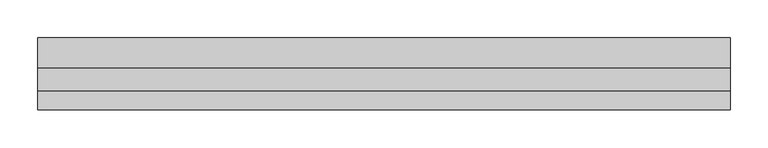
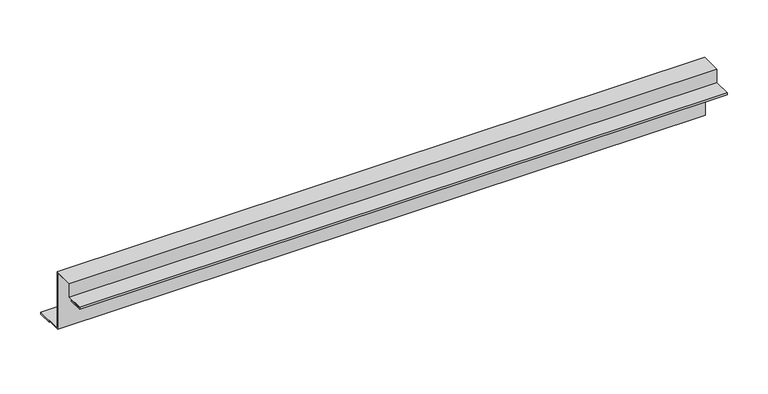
"""IFC4 building model written with IfcOpenShell, lengths in millimetres: proxy geometry, АК7_1 низ Обрамление оконного_дверного проема : АК7_1 низ Обрамление оконного_дверного проема."""

import ifcopenshell
import ifcopenshell.guid

model = None  # the IFC model being written
_history = None  # IfcOwnerHistory: only IFC2X3 demands one
_inside = {}  # id of a spatial element -> (the spatial element, [elements in it])
_under = {}  # id of a project, library or spatial element -> (it, [spatial elements below it])
_declared = {}  # id of a project -> (the project, [libraries it declares])
_typed = {}  # id of a type object -> (the type object, [elements of that type])
_made_of = {}  # id of a material, layer set ... -> (it, [elements and type objects made of it])


def new_model(schema):
    """Start an empty IFC model of exactly this schema.

    Asked for "IFC4X3", IfcOpenShell would pick the latest addendum, in which some entities
    have other attributes; the version numbers below select the first issue.
    IFC2X3 requires an IfcOwnerHistory on every rooted entity: one is made here for all.
    """
    global model, _history
    if schema == "IFC4X3":
        model = ifcopenshell.file(schema_version=(4, 3, 0, 0))
    else:
        model = ifcopenshell.file(schema=schema)
    _inside.clear()
    _under.clear()
    _declared.clear()
    _typed.clear()
    _made_of.clear()
    _history = None
    if model.schema == "IFC2X3":
        org = make("IfcOrganization", Name="unknown")
        user = make(
            "IfcPersonAndOrganization",
            ThePerson=make("IfcPerson", FamilyName="unknown"),
            TheOrganization=org,
        )
        app = make(
            "IfcApplication",
            ApplicationDeveloper=org,
            Version="unknown",
            ApplicationFullName="unknown",
            ApplicationIdentifier="unknown",
        )
        _history = make(
            "IfcOwnerHistory",
            OwningUser=user,
            OwningApplication=app,
            ChangeAction="ADDED",
            CreationDate=0,
        )
    return model


def make(cls, **values):
    """One entity of the class cls with the attributes given. An attribute that is None is left unset."""
    return model.create_entity(
        cls, **{name: value for name, value in values.items() if value is not None}
    )


def rooted(cls, **values):
    """An entity with a GlobalId (a new one), such as an element, a storey or a relation."""
    return make(cls, GlobalId=ifcopenshell.guid.new(), OwnerHistory=_history, **values)


def si_unit(unit_type, name, prefix=None):
    """IfcSIUnit, for example si_unit("LENGTHUNIT", "METRE", prefix="MILLI")."""
    return make("IfcSIUnit", UnitType=unit_type, Prefix=prefix, Name=name)


def assignment(units):
    """IfcUnitAssignment: the units of a project."""
    return None if units is None else make("IfcUnitAssignment", Units=units)


def point(xyz):
    """IfcCartesianPoint."""
    return None if xyz is None else make("IfcCartesianPoint", Coordinates=xyz)


def direction(xyz):
    """IfcDirection."""
    return None if xyz is None else make("IfcDirection", DirectionRatios=xyz)


def frame(location, z_axis=None, x_axis=None):
    """IfcAxis2Placement3D, a coordinate frame: its origin and axes. An axis left out is left unset."""
    return make(
        "IfcAxis2Placement3D",
        Location=point(location),
        Axis=direction(z_axis),
        RefDirection=direction(x_axis),
    )


def origin():
    """The frame at (0, 0, 0) with its axes left unset."""
    return frame((0.0, 0.0, 0.0))


def place(relative_to, where):
    """IfcLocalPlacement: puts the frame where relative to a parent placement (None: the world)."""
    return make(
        "IfcLocalPlacement", PlacementRelTo=relative_to, RelativePlacement=where
    )


def context(
    kind, dimensions, precision=None, world=None, true_north=None, identifier=None
):
    """IfcGeometricRepresentationContext, for example the 3D "Model" context."""
    return make(
        "IfcGeometricRepresentationContext",
        ContextIdentifier=identifier,
        ContextType=kind,
        CoordinateSpaceDimension=dimensions,
        Precision=precision,
        WorldCoordinateSystem=world,
        TrueNorth=true_north,
    )


def project(units=None, contexts=None):
    """IfcProject with its units and contexts."""
    return rooted(
        "IfcProject",
        Name="project",
        RepresentationContexts=contexts,
        UnitsInContext=assignment(units),
    )


def spatial(cls, under=None, at=None, **own):
    """A site, building, storey or space (cls), placed at a placement, below another one or the project."""
    s = rooted(cls, ObjectPlacement=at, **own)
    if under is not None:
        _under.setdefault(under.id(), (under, []))[1].append(s)
    return s


def polyline(points):
    """IfcPolyline through the points."""
    return make("IfcPolyline", Points=[point(p) for p in points])


def outline(outer, holes=None, kind="AREA"):
    """IfcArbitraryClosedProfileDef: a profile drawn as a closed curve; with holes, ...WithVoids."""
    if holes is None:
        return make("IfcArbitraryClosedProfileDef", ProfileType=kind, OuterCurve=outer)
    return make(
        "IfcArbitraryProfileDefWithVoids",
        ProfileType=kind,
        OuterCurve=outer,
        InnerCurves=holes,
    )


def extrude(swept, where, along, depth):
    """IfcExtrudedAreaSolid: the profile swept, set in the frame where, extruded along a direction by depth."""
    return make(
        "IfcExtrudedAreaSolid",
        SweptArea=swept,
        Position=where,
        ExtrudedDirection=direction(along),
        Depth=depth,
    )


def shape(context_of_items, identifier, shape_type, items):
    """IfcShapeRepresentation: the items that make up one representation, for example the "Body"."""
    return make(
        "IfcShapeRepresentation",
        ContextOfItems=context_of_items,
        RepresentationIdentifier=identifier,
        RepresentationType=shape_type,
        Items=items,
    )


def source(mapping_origin, context_of_items, identifier, shape_type, items):
    """IfcRepresentationMap: a shape defined once, which mapped items show again and again."""
    return make(
        "IfcRepresentationMap",
        MappingOrigin=mapping_origin,
        MappedRepresentation=shape(context_of_items, identifier, shape_type, items),
    )


def transform(
    local_origin,
    x_axis=None,
    y_axis=None,
    z_axis=None,
    scale=None,
    scale2=None,
    scale3=None,
    uniform=True,
):
    """IfcCartesianTransformationOperator3D, or its non-uniform kind. x_axis, y_axis, z_axis: its Axis1, 2, 3."""
    if uniform:
        return make(
            "IfcCartesianTransformationOperator3D",
            Axis1=direction(x_axis),
            Axis2=direction(y_axis),
            LocalOrigin=point(local_origin),
            Scale=scale,
            Axis3=direction(z_axis),
        )
    return make(
        "IfcCartesianTransformationOperator3DnonUniform",
        Axis1=direction(x_axis),
        Axis2=direction(y_axis),
        LocalOrigin=point(local_origin),
        Scale=scale,
        Axis3=direction(z_axis),
        Scale2=scale2,
        Scale3=scale3,
    )


def mapped(mapping_source, mapping_target):
    """IfcMappedItem: shows the shape of a source again, moved by a transform."""
    return make(
        "IfcMappedItem", MappingSource=mapping_source, MappingTarget=mapping_target
    )


def made_of(thing, what):
    """Note that an element or type object is made of a material, layer set ...; save() writes the relation."""
    if what is not None:
        _made_of.setdefault(what.id(), (what, []))[1].append(thing)
    return thing


def element(
    cls,
    number,
    at=None,
    inside=None,
    cuts=None,
    type_object=None,
    material=None,
    context=None,
    identifier="Body",
    shape_type=None,
    held_by="IfcProductDefinitionShape",
    body=None,
    shapes=None,
    **own,
):
    """One element of the class cls, such as IfcWall. Its Tag is "e" and its number.

    at: its placement. inside: the storey or other place that contains it. cuts: it is an
    opening in that element (IfcRelVoidsElement). A single representation is given by context,
    identifier, shape_type and body (its items); several are given by shapes. held_by: the class
    of the entity that holds the representations. save() writes the other relations.
    """
    e = rooted(cls, Tag="e%d" % number, ObjectPlacement=at, **own)
    if body is not None:
        shapes = [shape(context, identifier, shape_type, body)]
    if shapes is not None:
        e.Representation = make(held_by, Representations=shapes)
    if inside is not None:
        _inside.setdefault(inside.id(), (inside, []))[1].append(e)
    if cuts is not None:
        rooted(
            "IfcRelVoidsElement", RelatingBuildingElement=cuts, RelatedOpeningElement=e
        )
    if type_object is not None:
        _typed.setdefault(type_object.id(), (type_object, []))[1].append(e)
    return made_of(e, material)


def aggregate(whole, parts):
    """IfcRelAggregates: a whole, such as a stair, and the parts it consists of."""
    return rooted("IfcRelAggregates", RelatingObject=whole, RelatedObjects=parts)


def save(model, path):
    """Write the relations noted so far, then the file.

    IfcRelAggregates (storeys below a building ...), IfcRelContainedInSpatialStructure (elements
    in a storey), IfcRelDefinesByType, IfcRelAssociatesMaterial and IfcRelDeclares: one each for
    every whole, place, type object, material and project.
    """
    for whole, parts in _under.values():
        aggregate(whole, parts)
    for where, things in _inside.values():
        rooted(
            "IfcRelContainedInSpatialStructure",
            RelatedElements=things,
            RelatingStructure=where,
        )
    for kind, things in _typed.values():
        rooted("IfcRelDefinesByType", RelatedObjects=things, RelatingType=kind)
    for what, things in _made_of.values():
        rooted("IfcRelAssociatesMaterial", RelatedObjects=things, RelatingMaterial=what)
    for by, libraries in _declared.values():
        rooted("IfcRelDeclares", RelatingContext=by, RelatedDefinitions=libraries)
    model.write(path)


def generic_models_c30bbdda(model_context):
    return source(origin(), model_context, "Body", "SweptSolid", [
        extrude(outline(polyline([(99.137951, -85.0), (99.137951, -88.0), (79.137951, -88.0), (79.137951, -87.0), (98.137951, -87.0), (98.137951, -86.0), (58.1379519, -86.0), (58.1379519, -1.0), (30.1379519, -1.0), (30.1379519, -21.0000023), (5.1379519, -21.0000023), (5.1379519, -22.0000023), (24.1379519, -22.0000023), (24.1379519, -23.0000023), (4.1379519, -23.0000023), (4.1379519, -20.0000023), (29.1379519, -20.0000023), (29.1379519, 0.0), (59.1379519, 0.0), (59.1379519, -85.0), (99.137951, -85.0)])), frame((0.0, 0.0, 0.0), z_axis=(1.0, 0.0, 0.0), x_axis=(0.0, 1.0, 0.0)), (0.0, 0.0, 1.0), 915.0),
    ])


if __name__ == "__main__":
    model = new_model("IFC4")
    model_context = context("Model", 3, world=origin())
    ifc_project = project(units=[si_unit("LENGTHUNIT", "METRE", prefix="MILLI")], contexts=[model_context])
    site = spatial("IfcSite", under=ifc_project)
    building = spatial("IfcBuilding", under=site)
    placement = place(None, origin())
    generic_models_shape = generic_models_c30bbdda(model_context)
    element("IfcBuildingElementProxy", 1, Name="АК7_1 низ Обрамление оконного_дверного проема : АК7_1 низ Обрамление оконного_дверного проема", ObjectType="АК7_1 низ Обрамление оконного_дверного проема : АК7_1 низ Обрамление оконного_дверного проема", at=placement, inside=building, context=model_context, shape_type="MappedRepresentation", body=[
        mapped(generic_models_shape, transform((0.0, 0.0, 0.0), x_axis=(1.0, 0.0, 0.0), y_axis=(0.0, 1.0, 0.0), z_axis=(0.0, 0.0, 1.0))),
    ])
    save(model, "model.ifc")
